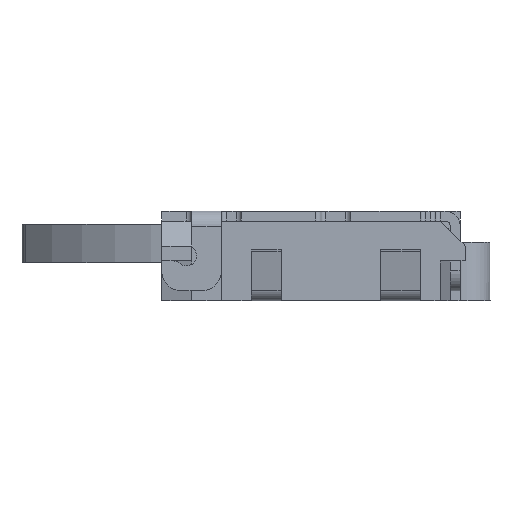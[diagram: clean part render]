
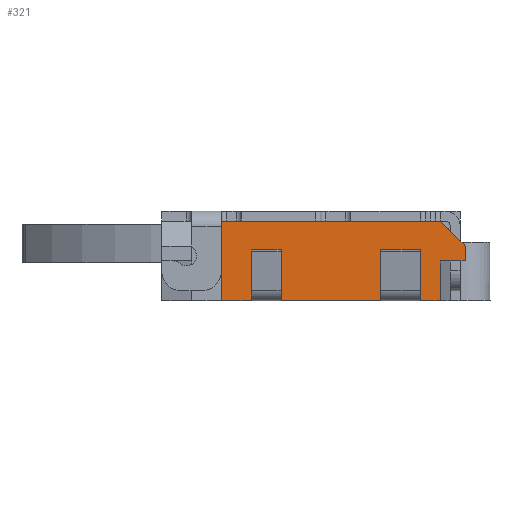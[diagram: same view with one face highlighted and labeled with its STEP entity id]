
A CAD part, left-side view. The second image highlights one B-rep face of the part: STEP entity #321.
In plain terms, the highlighted planar face has unit normal (-1, 0, 0).
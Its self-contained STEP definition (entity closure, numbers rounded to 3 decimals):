
#321 = ADVANCED_FACE( '', ( #827 ), #828, .F. );
#827 = FACE_OUTER_BOUND( '', #1565, .T. );
#828 = PLANE( '', #1566 );
#1565 = EDGE_LOOP( '', ( #2294, #2295, #2296, #2297, #2298, #2299, #2300, #2301, #2302, #2303, #2304, #2305, #2306, #2307, #2308 ) );
#1566 = AXIS2_PLACEMENT_3D( '', #2309, #2310, #2311 );
#2294 = ORIENTED_EDGE( '', *, *, #4468, .T. );
#2295 = ORIENTED_EDGE( '', *, *, #4469, .F. );
#2296 = ORIENTED_EDGE( '', *, *, #4470, .T. );
#2297 = ORIENTED_EDGE( '', *, *, #4471, .T. );
#2298 = ORIENTED_EDGE( '', *, *, #4472, .F. );
#2299 = ORIENTED_EDGE( '', *, *, #4473, .F. );
#2300 = ORIENTED_EDGE( '', *, *, #4474, .T. );
#2301 = ORIENTED_EDGE( '', *, *, #4475, .T. );
#2302 = ORIENTED_EDGE( '', *, *, #4476, .F. );
#2303 = ORIENTED_EDGE( '', *, *, #4477, .T. );
#2304 = ORIENTED_EDGE( '', *, *, #4478, .T. );
#2305 = ORIENTED_EDGE( '', *, *, #4479, .T. );
#2306 = ORIENTED_EDGE( '', *, *, #4480, .F. );
#2307 = ORIENTED_EDGE( '', *, *, #4481, .F. );
#2308 = ORIENTED_EDGE( '', *, *, #4482, .T. );
#2309 = CARTESIAN_POINT( '', ( -1.75, 2.7, 0.8 ) );
#2310 = DIRECTION( '', ( 1., 0., 0. ) );
#2311 = DIRECTION( '', ( 0., 1., 0. ) );
#4468 = EDGE_CURVE( '', #5336, #5337, #5338, .T. );
#4469 = EDGE_CURVE( '', #5339, #5337, #5340, .T. );
#4470 = EDGE_CURVE( '', #5339, #5341, #5342, .T. );
#4471 = EDGE_CURVE( '', #5341, #5343, #5344, .T. );
#4472 = EDGE_CURVE( '', #5345, #5343, #5346, .T. );
#4473 = EDGE_CURVE( '', #5347, #5345, #5348, .T. );
#4474 = EDGE_CURVE( '', #5347, #5349, #5350, .T. );
#4475 = EDGE_CURVE( '', #5349, #5351, #5352, .T. );
#4476 = EDGE_CURVE( '', #5353, #5351, #5354, .T. );
#4477 = EDGE_CURVE( '', #5353, #5355, #5356, .T. );
#4478 = EDGE_CURVE( '', #5355, #5357, #5358, .T. );
#4479 = EDGE_CURVE( '', #5357, #5359, #5360, .T. );
#4480 = EDGE_CURVE( '', #5361, #5359, #5362, .T. );
#4481 = EDGE_CURVE( '', #5363, #5361, #5364, .T. );
#4482 = EDGE_CURVE( '', #5363, #5336, #5365, .T. );
#5336 = VERTEX_POINT( '', #6625 );
#5337 = VERTEX_POINT( '', #6626 );
#5338 = LINE( '', #6627, #6628 );
#5339 = VERTEX_POINT( '', #6629 );
#5340 = LINE( '', #6630, #6631 );
#5341 = VERTEX_POINT( '', #6632 );
#5342 = LINE( '', #6633, #6634 );
#5343 = VERTEX_POINT( '', #6635 );
#5344 = LINE( '', #6636, #6637 );
#5345 = VERTEX_POINT( '', #6638 );
#5346 = LINE( '', #6639, #6640 );
#5347 = VERTEX_POINT( '', #6641 );
#5348 = LINE( '', #6642, #6643 );
#5349 = VERTEX_POINT( '', #6644 );
#5350 = LINE( '', #6645, #6646 );
#5351 = VERTEX_POINT( '', #6647 );
#5352 = LINE( '', #6648, #6649 );
#5353 = VERTEX_POINT( '', #6650 );
#5354 = LINE( '', #6651, #6652 );
#5355 = VERTEX_POINT( '', #6653 );
#5356 = LINE( '', #6654, #6655 );
#5357 = VERTEX_POINT( '', #6656 );
#5358 = LINE( '', #6657, #6658 );
#5359 = VERTEX_POINT( '', #6659 );
#5360 = LINE( '', #6660, #6661 );
#5361 = VERTEX_POINT( '', #6662 );
#5362 = LINE( '', #6663, #6664 );
#5363 = VERTEX_POINT( '', #6665 );
#5364 = LINE( '', #6666, #6667 );
#5365 = LINE( '', #6668, #6669 );
#6625 = CARTESIAN_POINT( '', ( -1.75, 0.1, 0. ) );
#6626 = CARTESIAN_POINT( '', ( -1.75, -0.1, 0. ) );
#6627 = CARTESIAN_POINT( '', ( -1.75, 2.7, 0. ) );
#6628 = VECTOR( '', #8380, 1000. );
#6629 = CARTESIAN_POINT( '', ( -1.75, -0.1, 0.4 ) );
#6630 = CARTESIAN_POINT( '', ( -1.75, -0.1, 0.4 ) );
#6631 = VECTOR( '', #8381, 1000. );
#6632 = CARTESIAN_POINT( '', ( -1.75, -0.35, 0.4 ) );
#6633 = CARTESIAN_POINT( '', ( -1.75, -0.2, 0.4 ) );
#6634 = VECTOR( '', #8382, 1000. );
#6635 = CARTESIAN_POINT( '', ( -1.75, -0.35, 0.55 ) );
#6636 = CARTESIAN_POINT( '', ( -1.75, -0.35, 0.4 ) );
#6637 = VECTOR( '', #8383, 1000. );
#6638 = CARTESIAN_POINT( '', ( -1.75, -0.1, 0.8 ) );
#6639 = CARTESIAN_POINT( '', ( -1.75, -0.1, 0.8 ) );
#6640 = VECTOR( '', #8384, 1000. );
#6641 = CARTESIAN_POINT( '', ( -1.75, 2.1, 0.8 ) );
#6642 = CARTESIAN_POINT( '', ( -1.75, 2.7, 0.8 ) );
#6643 = VECTOR( '', #8385, 1000. );
#6644 = CARTESIAN_POINT( '', ( -1.75, 2.1, 0. ) );
#6645 = CARTESIAN_POINT( '', ( -1.75, 2.1, 4.679 ) );
#6646 = VECTOR( '', #8386, 1000. );
#6647 = CARTESIAN_POINT( '', ( -1.75, 1.8, 0. ) );
#6648 = CARTESIAN_POINT( '', ( -1.75, 2.7, 0. ) );
#6649 = VECTOR( '', #8387, 1000. );
#6650 = CARTESIAN_POINT( '', ( -1.75, 1.8, 0.08 ) );
#6651 = CARTESIAN_POINT( '', ( -1.75, 1.8, 0.08 ) );
#6652 = VECTOR( '', #8388, 1000. );
#6653 = CARTESIAN_POINT( '', ( -1.75, 1.5, 0.08 ) );
#6654 = CARTESIAN_POINT( '', ( -1.75, 1.8, 0.08 ) );
#6655 = VECTOR( '', #8389, 1000. );
#6656 = CARTESIAN_POINT( '', ( -1.75, 1.5, 0. ) );
#6657 = CARTESIAN_POINT( '', ( -1.75, 1.5, 0.08 ) );
#6658 = VECTOR( '', #8390, 1000. );
#6659 = CARTESIAN_POINT( '', ( -1.75, 0.5, 0. ) );
#6660 = CARTESIAN_POINT( '', ( -1.75, 2.7, 0. ) );
#6661 = VECTOR( '', #8391, 1000. );
#6662 = CARTESIAN_POINT( '', ( -1.75, 0.5, 0.08 ) );
#6663 = CARTESIAN_POINT( '', ( -1.75, 0.5, 0.08 ) );
#6664 = VECTOR( '', #8392, 1000. );
#6665 = CARTESIAN_POINT( '', ( -1.75, 0.1, 0.08 ) );
#6666 = CARTESIAN_POINT( '', ( -1.75, 0.5, 0.08 ) );
#6667 = VECTOR( '', #8393, 1000. );
#6668 = CARTESIAN_POINT( '', ( -1.75, 0.1, 0.08 ) );
#6669 = VECTOR( '', #8394, 1000. );
#8380 = DIRECTION( '', ( 0., -1., 0. ) );
#8381 = DIRECTION( '', ( 0., 0., -1. ) );
#8382 = DIRECTION( '', ( 0., -1., 0. ) );
#8383 = DIRECTION( '', ( 0., 0., 1. ) );
#8384 = DIRECTION( '', ( 0., -0.707, -0.707 ) );
#8385 = DIRECTION( '', ( 0., -1., 0. ) );
#8386 = DIRECTION( '', ( 0., 0., -1. ) );
#8387 = DIRECTION( '', ( 0., -1., 0. ) );
#8388 = DIRECTION( '', ( 0., 0., -1. ) );
#8389 = DIRECTION( '', ( 0., -1., 0. ) );
#8390 = DIRECTION( '', ( 0., 0., -1. ) );
#8391 = DIRECTION( '', ( 0., -1., 0. ) );
#8392 = DIRECTION( '', ( 0., 0., -1. ) );
#8393 = DIRECTION( '', ( 0., 1., 0. ) );
#8394 = DIRECTION( '', ( 0., 0., -1. ) );
